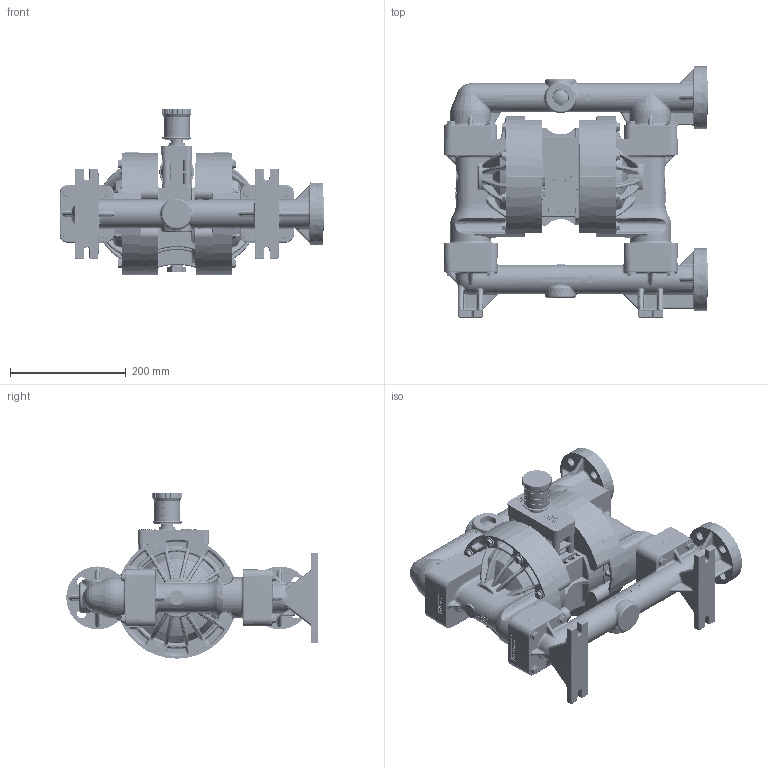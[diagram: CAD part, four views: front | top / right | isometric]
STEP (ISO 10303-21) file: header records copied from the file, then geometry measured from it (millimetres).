
FILE_DESCRIPTION (( 'STEP AP203' ), '1' );
FILE_NAME ('p200_advanced_poly.STEP', '2024-11-12T11:53:33', ( '' ), ( '' ), 'SwSTEP 2.0', 'SolidWorks 2022', '' );
FILE_SCHEMA (( 'CONFIG_CONTROL_DESIGN' ));
Products named in the file (1): p200_advanced_poly
Bounding box: 457.09 x 434.16 x 287.5 mm (x, y, z)
Volume: 11160610.7 mm3; surface area: 858250.9 mm2
Topology: 1 solids, 1 shells, 8465 faces, 21500 edges, 13311 vertices
Faces by surface type: plane 4056, bspline 1714, cylinder 1175, sphere 706, cone 530, torus 284
Entity records: 454794 total; most frequent: CARTESIAN_POINT 265772, ORIENTED_EDGE 42978, DIRECTION 34526, EDGE_CURVE 21489, VERTEX_POINT 13309, AXIS2_PLACEMENT_3D 12121, VECTOR 10284, LINE 10284
